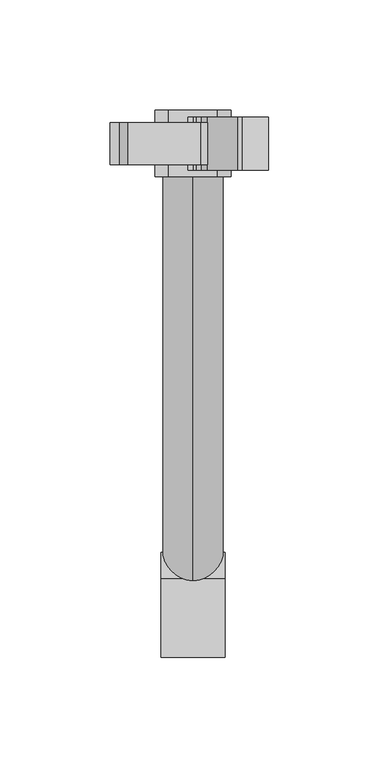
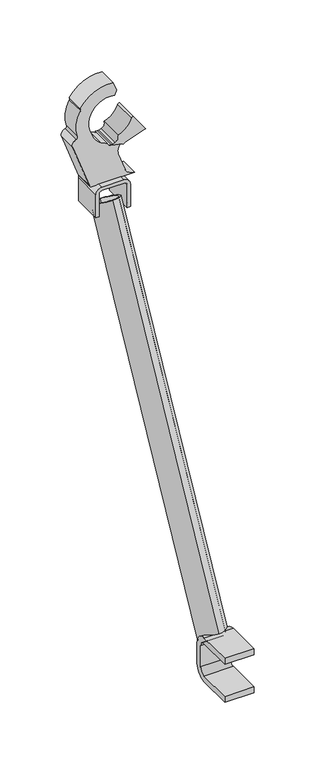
"""IFC4 building model written with IfcOpenShell, lengths in millimetres: proxy geometry, AK_強化方杖-子_軽 : W0600_強化方杖."""

from ifc_helpers import new_model, si_unit, point, frame, frame_2d, origin, place, context, project, spatial, polyline, circle_curve, trimmed, segment, composite_curve, outline, extrude, source, transform, mapped, element, save
from ifc_brep_helpers import plane_surface, cylinder_surface, revolved_surface, advanced_brep


def generic_models_9f188e84(model_context):
    return source(origin(), model_context, "Body", "SolidModel", [
        extrude(outline(composite_curve([segment(trimmed(circle_curve(frame_2d((0.0, 13.6)), 13.6), [point((0.0, 27.2000001))], [point((0.0, 0.0))], False, "CARTESIAN"), True, "CONTINUOUS"), segment(trimmed(circle_curve(frame_2d((0.0, 13.6)), 13.6), [point((0.0, 0.0))], [point((0.0, 27.2000001))], False, "CARTESIAN"), True, "CONTINUOUS")], self_intersect=False), holes=[composite_curve([segment(trimmed(circle_curve(frame_2d((0.0, 13.6)), 11.2), [point((0.0, 24.8000001))], [point((0.0, 2.4))], True, "CARTESIAN"), True, "CONTINUOUS"), segment(trimmed(circle_curve(frame_2d((0.0, 13.6)), 11.2), [point((0.0, 2.4))], [point((0.0, 24.8000001))], True, "CARTESIAN"), True, "CONTINUOUS")], self_intersect=False)]), frame((-0.0001725, 55.7433961, -431.6086418), z_axis=(0.0, 0.46947156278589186, 0.8829475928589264), x_axis=(1.0, 0.0, 0.0)), (0.0, 0.0, 1.0), 393.0),
        extrude(outline(composite_curve([segment(polyline([(-73.1876694, -17.2001726), (-96.9876694, -17.2001726), (-96.9876694, -14.0001726), (-73.1876694, -14.0001726)]), True, "CONTINUOUS"), segment(trimmed(circle_curve(frame_2d((-73.1876694, -11.0001726)), 3.0), [point((-73.1876694, -14.0001726))], [point((-70.1876694, -11.0001726))], True, "CARTESIAN"), True, "CONTINUOUS"), segment(polyline([(-70.1876694, -11.0001726), (-70.1876694, 10.9998274)]), True, "CONTINUOUS"), segment(trimmed(circle_curve(frame_2d((-73.1876694, 10.9998274)), 3.0), [point((-70.1876694, 10.9998274))], [point((-73.1876694, 13.9998274))], True, "CARTESIAN"), True, "CONTINUOUS"), segment(polyline([(-73.1876694, 13.9998274), (-96.9876694, 13.9998274), (-96.9876694, 17.1998274), (-73.1876694, 17.1998274)]), True, "CONTINUOUS"), segment(trimmed(circle_curve(frame_2d((-73.1876694, 10.9998274)), 6.2), [point((-73.1876694, 17.1998274))], [point((-66.9876694, 10.9998274))], False, "CARTESIAN"), True, "CONTINUOUS"), segment(polyline([(-66.9876694, 10.9998274), (-66.9876694, -11.0001726)]), True, "CONTINUOUS"), segment(trimmed(circle_curve(frame_2d((-73.1876694, -11.0001726)), 6.2), [point((-66.9876694, -11.0001726))], [point((-73.1876694, -17.2001726))], False, "CARTESIAN"), True, "CONTINUOUS")], self_intersect=False)), frame((0.0, 240.0000002, 0.0), z_axis=(0.0, 1.0, 0.0), x_axis=(0.0, 0.0, 1.0)), (0.0, 0.0, 1.0), 30.0),
        extrude(outline(composite_curve([segment(polyline([(22.2800304, -435.0), (22.2800304, -429.0), (57.8, -429.0)]), True, "CONTINUOUS"), segment(trimmed(circle_curve(frame_2d((57.8, -441.0)), 12.0), [point((57.8, -429.0))], [point((69.8, -441.0))], False, "CARTESIAN"), True, "CONTINUOUS"), segment(polyline([(69.8, -441.0), (69.8, -463.0)]), True, "CONTINUOUS"), segment(trimmed(circle_curve(frame_2d((57.8, -463.0)), 12.0), [point((69.8, -463.0))], [point((57.8, -475.0))], False, "CARTESIAN"), True, "CONTINUOUS"), segment(polyline([(57.8, -475.0), (22.2800304, -475.0), (22.2800304, -469.0), (57.8, -469.0)]), True, "CONTINUOUS"), segment(trimmed(circle_curve(frame_2d((57.8, -463.0)), 6.0), [point((57.8, -469.0))], [point((63.8, -463.0))], True, "CARTESIAN"), True, "CONTINUOUS"), segment(polyline([(63.8, -463.0), (63.8, -441.0)]), True, "CONTINUOUS"), segment(trimmed(circle_curve(frame_2d((57.8, -441.0)), 6.0), [point((63.8, -441.0))], [point((57.8, -435.0))], True, "CARTESIAN"), True, "CONTINUOUS"), segment(polyline([(57.8, -435.0), (22.2800304, -435.0)]), True, "CONTINUOUS")], self_intersect=False)), frame((-14.5001725, 0.0, 0.0), z_axis=(1.0, 0.0, 0.0), x_axis=(0.0, 1.0, 0.0)), (0.0, 0.0, 1.0), 29.0),
        extrude(outline(composite_curve([segment(trimmed(circle_curve(frame_2d((-32.6886913, 10.2219188)), 2.0), [point((-30.7024989, 10.4565239))], [point((-31.2418688, 11.6027535))], True, "CARTESIAN"), True, "CONTINUOUS"), segment(trimmed(circle_curve(frame_2d((-38.5781305, 16.8301477)), 9.0081288), [point((-31.2418688, 11.6027535))], [point((-30.088619, 13.8177433))], True, "CARTESIAN"), True, "CONTINUOUS"), segment(polyline([(-30.088619, 13.8177433), (-23.5331687, 31.8286952)]), True, "CONTINUOUS"), segment(trimmed(circle_curve(frame_2d((-32.9300949, 35.2488966)), 10.0), [point((-23.5331687, 31.8286952))], [point((-22.9871982, 34.1817484))], True, "CARTESIAN"), True, "CONTINUOUS"), segment(polyline([(-22.9871982, 34.1817484), (-5.9816481, 22.1095289)]), True, "CONTINUOUS"), segment(trimmed(circle_curve(frame_2d((-7.9746671, 21.9425702)), 2.0), [point((-5.9816481, 22.1095289))], [point((-7.2917355, 20.0627818))], False, "CARTESIAN"), True, "CONTINUOUS"), segment(trimmed(circle_curve(frame_2d((-0.0014416, -0.0039597)), 21.35), [point((-7.2917355, 20.0627818))], [point((-20.3113439, 6.5786208))], True, "CARTESIAN"), True, "CONTINUOUS"), segment(trimmed(circle_curve(frame_2d((-22.1746624, 1.9387885)), 5.0), [point((-20.3113439, 6.5786208))], [point((-26.8729856, 3.6492735))], True, "CARTESIAN"), True, "CONTINUOUS"), segment(polyline([(-26.8729856, 3.6492735), (-27.7040732, 1.3664601)]), True, "CONTINUOUS"), segment(trimmed(circle_curve(frame_2d((-24.8850792, 0.3401692)), 3.0), [point((-27.7040732, 1.3664601))], [point((-27.8546311, -0.0861658))], True, "CARTESIAN"), True, "CONTINUOUS"), segment(trimmed(circle_curve(frame_2d((1.3459625, 4.1061283)), 29.5), [point((-27.8546311, -0.0861658))], [point((-27.44936, -2.3031928))], True, "CARTESIAN"), True, "CONTINUOUS"), segment(trimmed(circle_curve(frame_2d((18.9523125, 16.3216505)), 50.0), [point((-27.44936, -2.3031928))], [point((-30.7024989, 10.4565239))], False, "CARTESIAN"), True, "CONTINUOUS")], self_intersect=False)), frame((0.0, 243.0010001, 0.0), z_axis=(0.0, 1.0, 0.0), x_axis=(0.0, 0.0, 1.0)), (0.0, 0.0, 1.0), 23.9979997),
        advanced_brep(
        [(-37.2348377, 245.5, -19.0293009), (-20.2586705, 245.5, -65.670937), (-18.3792852, 245.5, -66.9868967), (24.5947016, 245.5, -66.9868967), (15.1977754, 245.5, -60.4070982), (8.368197, 245.5, -41.6496916), (11.6027535, 245.5, -31.2418688), (10.4565239, 245.5, -30.7024989), (-9.1019486, 245.5, -24.1016143), (-17.8330831, 245.5, -13.419791), (-20.0954524, 245.5, -7.2039825), (4.6347776, 245.5, 20.842121), (6.5069867, 245.5, 25.985973), (3.281918, 245.5, 34.8467764), (-29.5120412, 245.5, 18.813339), (-29.2191051, 245.5, 18.0085036), (-29.351263, 245.5, 16.3512229), (-32.1092044, 245.5, -9.8896443), (-33.5965319, 245.5, -12.432886), (-37.2348377, 264.5, -19.0293009), (-33.5965319, 264.5, -12.432886), (-32.1092044, 264.5, -9.8896443), (-29.351263, 264.5, 16.3512229), (-29.2191051, 264.5, 18.0085036), (-29.5120412, 264.5, 18.813339), (3.281918, 264.5, 34.8467764), (6.5069867, 264.5, 25.985973), (4.6347776, 264.5, 20.842121), (-20.0954524, 264.5, -7.2039825), (-17.8330831, 264.5, -13.419791), (-9.1019486, 264.5, -24.1016143), (10.4565239, 264.5, -30.7024989), (11.6027535, 264.5, -31.2418688), (8.368197, 264.5, -41.6496916), (15.1956198, 264.5, -60.4078816), (24.5947016, 264.5, -66.9868967), (-18.3792852, 264.5, -66.9868967), (-20.2586705, 264.5, -65.670937)],
        [
            (0, 1),
            (1, 2, circle_curve(frame((-18.3792852, 245.5, -64.9868967), z_axis=(0.0, -1.0, 0.0), x_axis=(1.0, 0.0, 0.0)), 2.0)),
            (2, 3),
            (3, 4, circle_curve(frame((24.5947016, 245.5, -56.9868967), z_axis=(0.0, 1.0, 0.0), x_axis=(1.0, 0.0, 0.0)), 10.0)),
            (4, 5),
            (5, 6, circle_curve(frame((16.8254306, 245.5, -38.5715103), z_axis=(0.0, 1.0, 0.0), x_axis=(1.0, 0.0, 0.0)), 9.0)),
            (6, 7, circle_curve(frame((10.2219188, 245.5, -32.6886913), z_axis=(0.0, -1.0, 0.0), x_axis=(1.0, 0.0, 0.0)), 2.0)),
            (7, 8, circle_curve(frame((16.3216505, 245.5, 18.9523125), z_axis=(0.0, 1.0, 0.0), x_axis=(1.0, 0.0, 0.0)), 50.0)),
            (8, 9, circle_curve(frame((1.067491, 245.5, -6.8800436), z_axis=(0.0, 1.0, 0.0), x_axis=(1.0, 0.0, 0.0)), 20.0)),
            (9, 10),
            (10, 11, circle_curve(frame((0.0021552, 245.5, 0.0007845), z_axis=(0.0, 1.0, 0.0), x_axis=(1.0, 0.0, 0.0)), 21.35)),
            (11, 12),
            (12, 13),
            (13, 14, circle_curve(frame((0.0021552, 245.5, 0.0007845), z_axis=(0.0, -1.0, 0.0), x_axis=(1.0, 0.0, 0.0)), 35.0)),
            (14, 15),
            (15, 16, circle_curve(frame((-31.0984903, 245.5, 17.3244633), z_axis=(0.0, 1.0, 0.0), x_axis=(1.0, 0.0, 0.0)), 2.0)),
            (16, 17, circle_curve(frame((0.0021552, 245.5, 0.0007845), z_axis=(0.0, -1.0, 0.0), x_axis=(1.0, 0.0, 0.0)), 33.6)),
            (17, 18, circle_curve(frame((-34.0205949, 245.5, -10.4783603), z_axis=(0.0, 1.0, 0.0), x_axis=(1.0, 0.0, 0.0)), 2.0)),
            (18, 0, circle_curve(frame((-32.5363746, 245.5, -17.3192002), z_axis=(0.0, -1.0, 0.0), x_axis=(1.0, 0.0, 0.0)), 5.0)),
            (19, 20, circle_curve(frame((-32.5363746, 264.5, -17.3192002), z_axis=(0.0, 1.0, 0.0), x_axis=(1.0, 0.0, 0.0)), 5.0)),
            (20, 21, circle_curve(frame((-34.0205949, 264.5, -10.4783603), z_axis=(0.0, -1.0, 0.0), x_axis=(1.0, 0.0, 0.0)), 2.0)),
            (21, 22, circle_curve(frame((0.0021552, 264.5, 0.0007845), z_axis=(0.0, 1.0, 0.0), x_axis=(1.0, 0.0, 0.0)), 33.6)),
            (22, 23, circle_curve(frame((-31.0984903, 264.5, 17.3244633), z_axis=(0.0, -1.0, 0.0), x_axis=(1.0, 0.0, 0.0)), 2.0)),
            (23, 24),
            (24, 25, circle_curve(frame((0.0021552, 264.5, 0.0007845), z_axis=(0.0, 1.0, 0.0), x_axis=(1.0, 0.0, 0.0)), 35.0)),
            (25, 26),
            (26, 27),
            (27, 28, circle_curve(frame((0.0021552, 264.5, 0.0007845), z_axis=(0.0, -1.0, 0.0), x_axis=(1.0, 0.0, 0.0)), 21.35)),
            (28, 29),
            (29, 30, circle_curve(frame((1.067491, 264.5, -6.8800436), z_axis=(0.0, -1.0, 0.0), x_axis=(1.0, 0.0, 0.0)), 20.0)),
            (30, 31, circle_curve(frame((16.3216505, 264.5, 18.9523125), z_axis=(0.0, -1.0, 0.0), x_axis=(1.0, 0.0, 0.0)), 50.0)),
            (31, 32, circle_curve(frame((10.2219188, 264.5, -32.6886913), z_axis=(0.0, 1.0, 0.0), x_axis=(1.0, 0.0, 0.0)), 2.0)),
            (32, 33, circle_curve(frame((16.8254306, 264.5, -38.5715103), z_axis=(0.0, -1.0, 0.0), x_axis=(1.0, 0.0, 0.0)), 9.0)),
            (33, 34),
            (34, 35, circle_curve(frame((24.5947016, 264.5, -56.9868967), z_axis=(0.0, -1.0, 0.0), x_axis=(1.0, 0.0, 0.0)), 10.0)),
            (35, 36),
            (36, 37, circle_curve(frame((-18.3792852, 264.5, -64.9868967), z_axis=(0.0, 1.0, 0.0), x_axis=(1.0, 0.0, 0.0)), 2.0)),
            (37, 19),
            (18, 20),
            (19, 0),
            (17, 21),
            (16, 22),
            (15, 23),
            (14, 24),
            (13, 25),
            (12, 26),
            (11, 27),
            (10, 28),
            (9, 29),
            (8, 30),
            (7, 31),
            (6, 32),
            (5, 33),
            (4, 34),
            (3, 35),
            (2, 36),
            (1, 37),
        ],
        [
            plane_surface(frame((-30.0001726, 245.5, -64.9876694), z_axis=(0.0, -1.0, 0.0), x_axis=(1.0, 0.0, 0.0))),
            plane_surface(frame((-30.0001726, 264.5, -64.9876694), z_axis=(0.0, 1.0, 0.0), x_axis=(1.0, 0.0, 0.0))),
            cylinder_surface(frame((-32.5363746, 245.5, -17.3192002), z_axis=(0.0, -1.0, 0.0), x_axis=(1.0, 0.0, 0.0)), 5.0),
            revolved_surface(polyline([(-32.0205949, 264.5, -10.4783603), (-32.0205949, 245.5, -10.4783603)]), (-34.0205949, 245.5, -10.4783603), (0.0, 1.0, 0.0)),
            cylinder_surface(frame((0.0021552, 245.5, 0.0007845), z_axis=(0.0, -1.0, 0.0), x_axis=(1.0, 0.0, 0.0)), 33.6),
            revolved_surface(polyline([(-29.0984903, 264.5, 17.3244633), (-29.0984903, 245.5, 17.3244633)]), (-31.0984903, 245.5, 17.3244633), (0.0, 1.0, 0.0)),
            plane_surface(frame((-29.2191051, 245.5, 18.0085036), z_axis=(-0.9396926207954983, 0.0, -0.3420201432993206), x_axis=(0.0, 1.0, 0.0))),
            cylinder_surface(frame((0.0021552, 245.5, 0.0007845), z_axis=(0.0, -1.0, 0.0), x_axis=(1.0, 0.0, 0.0)), 35.0),
            plane_surface(frame((3.281918, 245.5, 34.8467764), z_axis=(0.9396926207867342, 0.0, 0.3420201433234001), x_axis=(0.0, 1.0, 0.0))),
            plane_surface(frame((6.5069867, 245.5, 25.985973), z_axis=(0.9396926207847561, 0.0, -0.34202014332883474), x_axis=(0.0, 1.0, 0.0))),
            revolved_surface(polyline([(21.352155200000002, 264.5, 0.0007845), (21.352155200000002, 245.5, 0.0007845)]), (0.0021552, 245.5, 0.0007845), (0.0, 1.0, 0.0)),
            plane_surface(frame((-20.0954524, 245.5, -7.2039825), z_axis=(0.9396926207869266, 0.0, 0.34202014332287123), x_axis=(0.0, 1.0, 0.0))),
            revolved_surface(polyline([(21.067491, 264.5, -6.8800436), (21.067491, 245.5, -6.8800436)]), (1.067491, 245.5, -6.8800436), (0.0, 1.0, 0.0)),
            revolved_surface(polyline([(66.3216505, 264.5, 18.9523125), (66.3216505, 245.5, 18.9523125)]), (16.3216505, 245.5, 18.9523125), (0.0, 1.0, 0.0)),
            cylinder_surface(frame((10.2219188, 245.5, -32.6886913), z_axis=(0.0, -1.0, 0.0), x_axis=(1.0, 0.0, 0.0)), 2.0),
            revolved_surface(polyline([(25.8254306, 264.5, -38.5715103), (25.8254306, 245.5, -38.5715103)]), (16.8254306, 245.5, -38.5715103), (0.0, 1.0, 0.0)),
            plane_surface(frame((8.368197, 245.5, -41.6496916), z_axis=(0.9396926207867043, 0.0, 0.3420201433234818), x_axis=(0.0, 1.0, 0.0))),
            revolved_surface(polyline([(34.5947016, 264.5, -56.9868967), (34.5947016, 245.5, -56.9868967)]), (24.5947016, 245.5, -56.9868967), (0.0, 1.0, 0.0)),
            plane_surface(frame((24.5947016, 245.5, -66.9868967), z_axis=(0.0, 0.0, -1.0), x_axis=(0.0, 1.0, 0.0))),
            cylinder_surface(frame((-18.3792852, 245.5, -64.9868967), z_axis=(0.0, -1.0, 0.0), x_axis=(1.0, 0.0, 0.0)), 2.0),
            plane_surface(frame((-20.2586705, 245.5, -65.670937), z_axis=(-0.9396926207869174, 0.0, -0.34202014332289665), x_axis=(0.0, 1.0, 0.0))),
        ],
        [
            (0, [[1, 2, 3, 4, 5, 6, 7, 8, 9, 10, 11, 12, 13, 14, 15, 16, 17, 18, 19]]),
            (1, [[20, 21, 22, 23, 24, 25, 26, 27, 28, 29, 30, 31, 32, 33, 34, 35, 36, 37, 38]]),
            (2, [[39, -20, 40, -19]]),
            (3, [[41, -21, -39, -18]]),
            (4, [[42, -22, -41, -17]]),
            (5, [[43, -23, -42, -16]]),
            (6, [[44, -24, -43, -15]]),
            (7, [[45, -25, -44, -14]]),
            (8, [[46, -26, -45, -13]]),
            (9, [[47, -27, -46, -12]]),
            (10, [[48, -28, -47, -11]]),
            (11, [[49, -29, -48, -10]]),
            (12, [[50, -30, -49, -9]]),
            (13, [[51, -31, -50, -8]]),
            (14, [[52, -32, -51, -7]]),
            (15, [[53, -33, -52, -6]]),
            (16, [[54, -34, -53, -5]]),
            (17, [[55, -35, -54, -4]]),
            (18, [[56, -36, -55, -3]]),
            (19, [[57, -37, -56, -2]]),
            (20, [[-40, -38, -57, -1]]),
        ],
    ),
        advanced_brep(
        [(-14.0001726, 270.0, -73.1876694), (-14.0001726, 270.0, -92.0), (-17.2001726, 270.0, -92.0), (-17.2001726, 270.0, -73.1876694), (-11.0001726, 270.0, -66.9876694), (10.9998274, 270.0, -66.9876694), (17.1998274, 270.0, -73.1876694), (17.1998274, 270.0, -92.0), (13.9998274, 270.0, -92.0), (13.9998274, 270.0, -73.1876694), (10.9998274, 270.0, -70.1876694), (-11.0001726, 270.0, -70.1876694), (-17.2001726, 240.0, -73.1876694), (-17.2001726, 240.0, -92.0), (-14.0001726, 240.0, -92.0), (-14.0001726, 240.0, -73.1876694), (-11.0001726, 240.0, -70.1876694), (10.9998274, 240.0, -70.1876694), (13.9998274, 240.0, -73.1876694), (13.9998274, 240.0, -92.0), (17.1998274, 240.0, -92.0), (17.1998274, 240.0, -73.1876694), (10.9998274, 240.0, -66.9876694), (-11.0001726, 240.0, -66.9876694), (-17.2001726, 265.0123306, -96.9876694), (-17.2001726, 244.9876694, -96.9876694), (-14.0001726, 265.0123306, -96.9876694), (-14.0001726, 244.9876694, -96.9876694), (13.9998274, 265.0123306, -96.9876694), (13.9998274, 244.9876694, -96.9876694), (17.1998274, 265.0123306, -96.9876694), (17.1998274, 244.9876694, -96.9876694)],
        [
            (0, 1),
            (1, 2),
            (2, 3),
            (3, 4, circle_curve(frame((-11.0001726, 270.0, -73.1876694), z_axis=(0.0, 1.0, 0.0), x_axis=(1.0, 0.0, 0.0)), 6.2)),
            (4, 5),
            (5, 6, circle_curve(frame((10.9998274, 270.0, -73.1876694), z_axis=(0.0, 1.0, 0.0), x_axis=(1.0, 0.0, 0.0)), 6.2)),
            (6, 7),
            (7, 8),
            (8, 9),
            (9, 10, circle_curve(frame((10.9998274, 270.0, -73.1876694), z_axis=(0.0, -1.0, 0.0), x_axis=(1.0, 0.0, 0.0)), 3.0)),
            (10, 11),
            (11, 0, circle_curve(frame((-11.0001726, 270.0, -73.1876694), z_axis=(0.0, -1.0, 0.0), x_axis=(1.0, 0.0, 0.0)), 3.0)),
            (12, 13),
            (13, 14),
            (14, 15),
            (15, 16, circle_curve(frame((-11.0001726, 240.0, -73.1876694), z_axis=(0.0, 1.0, 0.0), x_axis=(1.0, 0.0, 0.0)), 3.0)),
            (16, 17),
            (17, 18, circle_curve(frame((10.9998274, 240.0, -73.1876694), z_axis=(0.0, 1.0, 0.0), x_axis=(1.0, 0.0, 0.0)), 3.0)),
            (18, 19),
            (19, 20),
            (20, 21),
            (21, 22, circle_curve(frame((10.9998274, 240.0, -73.1876694), z_axis=(0.0, -1.0, 0.0), x_axis=(1.0, 0.0, 0.0)), 6.2)),
            (22, 23),
            (23, 12, circle_curve(frame((-11.0001726, 240.0, -73.1876694), z_axis=(0.0, -1.0, 0.0), x_axis=(1.0, 0.0, 0.0)), 6.2)),
            (2, 24),
            (24, 25),
            (25, 13),
            (12, 3),
            (24, 26),
            (26, 27),
            (27, 25),
            (14, 27),
            (26, 1),
            (0, 15),
            (11, 16),
            (10, 17),
            (9, 18),
            (8, 28),
            (28, 29),
            (29, 19),
            (28, 30),
            (30, 31),
            (31, 29),
            (20, 31),
            (30, 7),
            (6, 21),
            (5, 22),
            (4, 23),
        ],
        [
            plane_surface(frame((-30.0001726, 270.0, -67.0), z_axis=(0.0, 1.0, 0.0), x_axis=(1.0, 0.0, 0.0))),
            plane_surface(frame((-30.0001726, 240.0, -67.0), z_axis=(0.0, -1.0, 0.0), x_axis=(1.0, 0.0, 0.0))),
            plane_surface(frame((-17.2001726, 270.0, -73.1876694), z_axis=(-1.0, 0.0, 0.0), x_axis=(0.0, -1.0, 0.0))),
            plane_surface(frame((-17.2001726, 270.0, -96.9876694), z_axis=(0.0, 0.0, -1.0), x_axis=(0.0, -1.0, 0.0))),
            plane_surface(frame((-14.0001726, 270.0, -96.9876694), z_axis=(1.0, 0.0, 0.0), x_axis=(0.0, -1.0, 0.0))),
            revolved_surface(polyline([(-8.0001726, 240.0, -73.1876694), (-8.0001726, 270.0, -73.1876694)]), (-11.0001726, 270.0, -73.1876694), (0.0, -1.0, 0.0)),
            plane_surface(frame((-11.0001726, 270.0, -70.1876694), z_axis=(0.0, 0.0, -1.0), x_axis=(0.0, -1.0, 0.0))),
            revolved_surface(polyline([(13.9998274, 240.0, -73.1876694), (13.9998274, 270.0, -73.1876694)]), (10.9998274, 270.0, -73.1876694), (0.0, -1.0, 0.0)),
            plane_surface(frame((13.9998274, 270.0, -73.1876694), z_axis=(-1.0, 0.0, 0.0), x_axis=(0.0, -1.0, 0.0))),
            plane_surface(frame((13.9998274, 270.0, -96.9876694), z_axis=(0.0, 0.0, -1.0), x_axis=(0.0, -1.0, 0.0))),
            plane_surface(frame((17.1998274, 270.0, -96.9876694), z_axis=(1.0, 0.0, 0.0), x_axis=(0.0, -1.0, 0.0))),
            cylinder_surface(frame((10.9998274, 270.0, -73.1876694), z_axis=(0.0, 1.0, 0.0), x_axis=(1.0, 0.0, 0.0)), 6.2),
            plane_surface(frame((10.9998274, 270.0, -66.9876694), z_axis=(0.0, 0.0, 1.0), x_axis=(0.0, -1.0, 0.0))),
            cylinder_surface(frame((-11.0001726, 270.0, -73.1876694), z_axis=(0.0, 1.0, 0.0), x_axis=(1.0, 0.0, 0.0)), 6.2),
            plane_surface(frame((17.1998274, 240.0, -92.0), z_axis=(0.0, -0.7071067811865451, -0.7071067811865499), x_axis=(-1.0, 0.0, 0.0))),
            plane_surface(frame((17.1998274, 265.0123306, -96.9876694), z_axis=(0.0, 0.7071067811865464, -0.7071067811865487), x_axis=(-1.0, 0.0, 0.0))),
        ],
        [
            (0, [[1, 2, 3, 4, 5, 6, 7, 8, 9, 10, 11, 12]]),
            (1, [[13, 14, 15, 16, 17, 18, 19, 20, 21, 22, 23, 24]]),
            (2, [[-3, 25, 26, 27, -13, 28]]),
            (3, [[-26, 29, 30, 31]]),
            (4, [[-15, 32, -30, 33, -1, 34]]),
            (5, [[35, -16, -34, -12]]),
            (6, [[36, -17, -35, -11]]),
            (7, [[37, -18, -36, -10]]),
            (8, [[-9, 38, 39, 40, -19, -37]]),
            (9, [[-39, 41, 42, 43]]),
            (10, [[-21, 44, -42, 45, -7, 46]]),
            (11, [[47, -22, -46, -6]]),
            (12, [[48, -23, -47, -5]]),
            (13, [[-28, -24, -48, -4]]),
            (14, [[-27, -31, -32, -14]]),
            (14, [[-40, -43, -44, -20]]),
            (15, [[-33, -29, -25, -2]]),
            (15, [[-45, -41, -38, -8]]),
        ],
    ),
    ])


if __name__ == "__main__":
    model = new_model("IFC4")
    model_context = context("Model", 3, world=origin())
    ifc_project = project(units=[si_unit("LENGTHUNIT", "METRE", prefix="MILLI")], contexts=[model_context])
    site = spatial("IfcSite", under=ifc_project)
    building = spatial("IfcBuilding", under=site)
    placement = place(None, origin())
    generic_models_shape = generic_models_9f188e84(model_context)
    element("IfcBuildingElementProxy", 1, Name="AK_強化方杖-子_軽 : W0600_強化方杖", ObjectType="AK_強化方杖-子_軽 : W0600_強化方杖", at=placement, inside=building, context=model_context, shape_type="MappedRepresentation", body=[
        mapped(generic_models_shape, transform((0.0, 0.0, 0.0), x_axis=(1.0, 0.0, 0.0), y_axis=(0.0, 1.0, 0.0), z_axis=(0.0, 0.0, 1.0))),
    ])
    save(model, "model.ifc")
